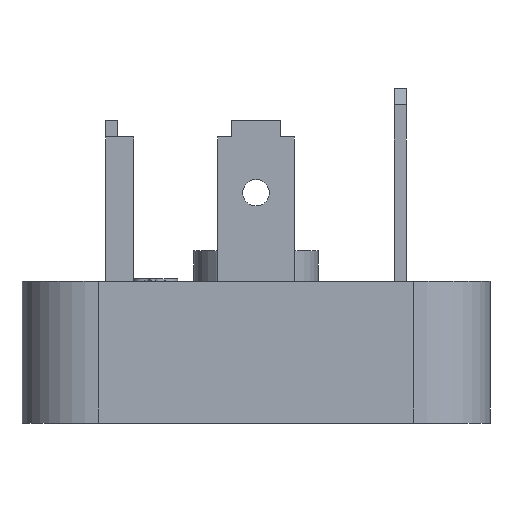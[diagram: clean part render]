
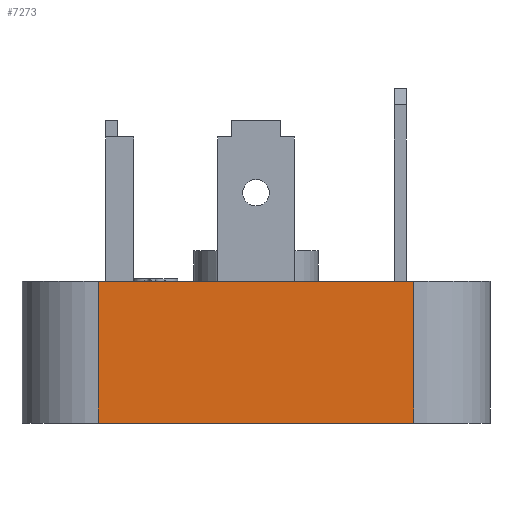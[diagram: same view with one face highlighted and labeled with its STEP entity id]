
A CAD part, left-side view. The second image highlights one B-rep face of the part: STEP entity #7273.
In plain terms, the highlighted planar face has unit normal (-1, 0, 0).
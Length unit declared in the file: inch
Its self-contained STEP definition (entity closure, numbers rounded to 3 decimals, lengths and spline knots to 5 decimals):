
#145 = DIRECTION ( 'NONE',  ( 0., 0., -1. ) ) ;
#146 = VECTOR ( 'NONE', #145, 39.37008 ) ;
#147 = CARTESIAN_POINT ( 'NONE',  ( -0.57283, 0.3873, 0.34843 ) ) ;
#148 = LINE ( 'NONE', #147, #146 ) ;
#190 = LINE ( 'NONE', #363, #268 ) ;
#247 = CARTESIAN_POINT ( 'NONE',  ( -0.57283, -0.3873, 0. ) ) ;
#249 = CARTESIAN_POINT ( 'NONE',  ( -0.57283, 0.3873, 0. ) ) ;
#268 = VECTOR ( 'NONE', #362, 39.37008 ) ;
#272 = LINE ( 'NONE', #275, #274 ) ;
#273 = DIRECTION ( 'NONE',  ( 0., -1., 0. ) ) ;
#274 = VECTOR ( 'NONE', #273, 39.37008 ) ;
#275 = CARTESIAN_POINT ( 'NONE',  ( -0.57283, 0.3873, 0. ) ) ;
#362 = DIRECTION ( 'NONE',  ( 0., 0., -1. ) ) ;
#363 = CARTESIAN_POINT ( 'NONE',  ( -0.57283, -0.3873, 0.34843 ) ) ;
#509 = DIRECTION ( 'NONE',  ( 0., 1., 0. ) ) ;
#510 = DIRECTION ( 'NONE',  ( 1., 0., 0. ) ) ;
#511 = CARTESIAN_POINT ( 'NONE',  ( -0.57283, 0.3873, 0.34843 ) ) ;
#512 = AXIS2_PLACEMENT_3D ( 'NONE', #511, #510, #509 ) ;
#524 = PLANE ( 'NONE',  #512 ) ;
#525 = FACE_OUTER_BOUND ( 'NONE', #7179, .T. ) ;
#6825 = VERTEX_POINT ( 'NONE', #9913 ) ;
#6827 = VERTEX_POINT ( 'NONE', #9912 ) ;
#6832 = EDGE_CURVE ( 'NONE', #6825, #6827, #9983, .T. ) ;
#7104 = ORIENTED_EDGE ( 'NONE', *, *, #7134, .T. ) ;
#7108 = EDGE_CURVE ( 'NONE', #6825, #7180, #148, .T. ) ;
#7132 = ORIENTED_EDGE ( 'NONE', *, *, #7133, .F. ) ;
#7133 = EDGE_CURVE ( 'NONE', #6827, #7183, #190, .T. ) ;
#7134 = EDGE_CURVE ( 'NONE', #7180, #7183, #272, .T. ) ;
#7179 = EDGE_LOOP ( 'NONE', ( #7104, #7132, #7185, #7231 ) ) ;
#7180 = VERTEX_POINT ( 'NONE', #249 ) ;
#7183 = VERTEX_POINT ( 'NONE', #247 ) ;
#7185 = ORIENTED_EDGE ( 'NONE', *, *, #6832, .F. ) ;
#7231 = ORIENTED_EDGE ( 'NONE', *, *, #7108, .T. ) ;
#7273 = ADVANCED_FACE ( 'NONE', ( #525 ), #524, .F. ) ;
#9912 = CARTESIAN_POINT ( 'NONE',  ( -0.57283, -0.3873, 0.34843 ) ) ;
#9913 = CARTESIAN_POINT ( 'NONE',  ( -0.57283, 0.3873, 0.34843 ) ) ;
#9980 = DIRECTION ( 'NONE',  ( 0., -1., 0. ) ) ;
#9981 = VECTOR ( 'NONE', #9980, 39.37008 ) ;
#9982 = CARTESIAN_POINT ( 'NONE',  ( -0.57283, 0.3873, 0.34843 ) ) ;
#9983 = LINE ( 'NONE', #9982, #9981 ) ;
